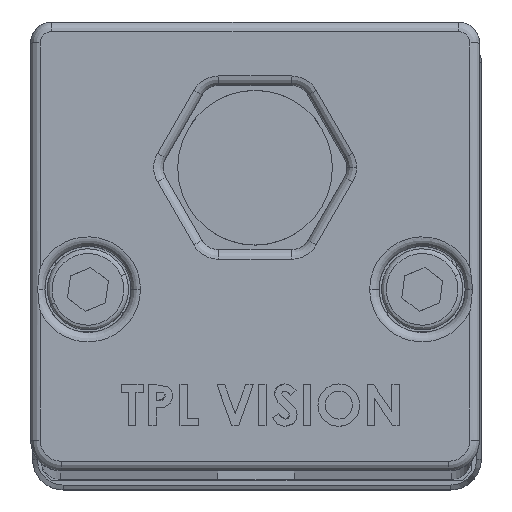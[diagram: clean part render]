
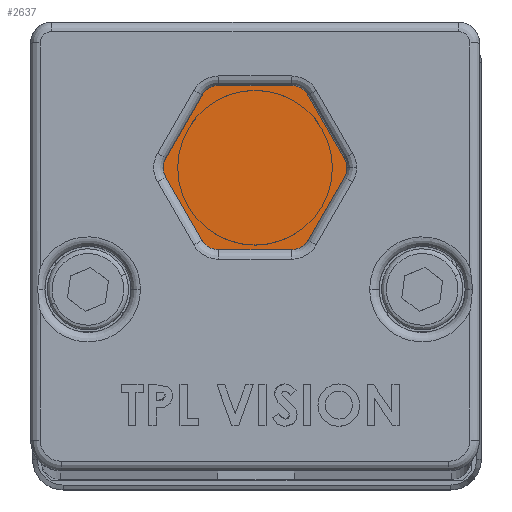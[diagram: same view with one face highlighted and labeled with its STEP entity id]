
A CAD part, top view. The second image highlights one B-rep face of the part: STEP entity #2637.
In plain terms, the highlighted planar face has unit normal (0, 0, 1).
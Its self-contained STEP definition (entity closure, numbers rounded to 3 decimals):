
#2580 = ORIENTED_EDGE ( 'NONE', *, *, #2582, .T. ) ;
#2582 = EDGE_CURVE ( 'NONE', #2640, #2583, #12076, .T. ) ;
#2583 = VERTEX_POINT ( 'NONE', #12317 ) ;
#2584 = ORIENTED_EDGE ( 'NONE', *, *, #2585, .T. ) ;
#2585 = EDGE_CURVE ( 'NONE', #2583, #2586, #12314, .T. ) ;
#2586 = VERTEX_POINT ( 'NONE', #12310 ) ;
#2587 = ORIENTED_EDGE ( 'NONE', *, *, #2588, .T. ) ;
#2588 = EDGE_CURVE ( 'NONE', #2586, #2589, #12307, .T. ) ;
#2589 = VERTEX_POINT ( 'NONE', #12302 ) ;
#2600 = ORIENTED_EDGE ( 'NONE', *, *, #2601, .T. ) ;
#2601 = EDGE_CURVE ( 'NONE', #2627, #2602, #11978, .T. ) ;
#2602 = VERTEX_POINT ( 'NONE', #11965 ) ;
#2603 = ORIENTED_EDGE ( 'NONE', *, *, #2604, .T. ) ;
#2604 = EDGE_CURVE ( 'NONE', #2602, #2680, #11962, .T. ) ;
#2610 = ORIENTED_EDGE ( 'NONE', *, *, #2612, .T. ) ;
#2612 = EDGE_CURVE ( 'NONE', #2589, #2613, #12213, .T. ) ;
#2613 = VERTEX_POINT ( 'NONE', #12207 ) ;
#2614 = ORIENTED_EDGE ( 'NONE', *, *, #2615, .T. ) ;
#2615 = EDGE_CURVE ( 'NONE', #2613, #2616, #12201, .T. ) ;
#2616 = VERTEX_POINT ( 'NONE', #12195 ) ;
#2624 = ORIENTED_EDGE ( 'NONE', *, *, #2625, .T. ) ;
#2625 = EDGE_CURVE ( 'NONE', #2616, #2627, #12016, .T. ) ;
#2627 = VERTEX_POINT ( 'NONE', #12010 ) ;
#2637 = ADVANCED_FACE ( 'NONE', ( #12956 ), #12916, .T. ) ;
#2638 = EDGE_LOOP ( 'NONE', ( #2580, #2584, #2587, #2610, #2614, #2624, #2600, #2603, #2681, #2683, #2684, #2687, #2693 ) ) ;
#2640 = VERTEX_POINT ( 'NONE', #12914 ) ;
#2680 = VERTEX_POINT ( 'NONE', #12645 ) ;
#2681 = ORIENTED_EDGE ( 'NONE', *, *, #2682, .T. ) ;
#2682 = EDGE_CURVE ( 'NONE', #2680, #5647, #12631, .T. ) ;
#2683 = ORIENTED_EDGE ( 'NONE', *, *, #5646, .T. ) ;
#2684 = ORIENTED_EDGE ( 'NONE', *, *, #2685, .T. ) ;
#2685 = EDGE_CURVE ( 'NONE', #5648, #2686, #12633, .T. ) ;
#2686 = VERTEX_POINT ( 'NONE', #12616 ) ;
#2687 = ORIENTED_EDGE ( 'NONE', *, *, #2689, .T. ) ;
#2689 = EDGE_CURVE ( 'NONE', #2686, #2691, #12615, .T. ) ;
#2691 = VERTEX_POINT ( 'NONE', #12607 ) ;
#2693 = ORIENTED_EDGE ( 'NONE', *, *, #3259, .T. ) ;
#3259 = EDGE_CURVE ( 'NONE', #2691, #2640, #15465, .T. ) ;
#5646 = EDGE_CURVE ( 'NONE', #5647, #5648, #23980, .T. ) ;
#5647 = VERTEX_POINT ( 'NONE', #23971 ) ;
#5648 = VERTEX_POINT ( 'NONE', #23970 ) ;
#11958 = DIRECTION ( 'NONE',  ( 0.5, 0.866, 0. ) ) ;
#11960 = VECTOR ( 'NONE', #11958, 1000. ) ;
#11961 = CARTESIAN_POINT ( 'NONE',  ( -4.027, 6.9, 1074.5 ) ) ;
#11962 = LINE ( 'NONE', #11961, #11960 ) ;
#11965 = CARTESIAN_POINT ( 'NONE',  ( -4.027, 6.9, 1074.5 ) ) ;
#11967 = DIRECTION ( 'NONE',  ( 1., 0., 0. ) ) ;
#11968 = DIRECTION ( 'NONE',  ( 0., 0., 1. ) ) ;
#11970 = CARTESIAN_POINT ( 'NONE',  ( -5.759, 7.9, 1074.5 ) ) ;
#11971 = AXIS2_PLACEMENT_3D ( 'NONE', #11970, #11968, #11967 ) ;
#11978 = CIRCLE ( 'NONE', #11971, 2. ) ;
#12010 = CARTESIAN_POINT ( 'NONE',  ( -5.759, 5.9, 1074.5 ) ) ;
#12011 = DIRECTION ( 'NONE',  ( 1., 0., 0. ) ) ;
#12013 = VECTOR ( 'NONE', #12011, 1000. ) ;
#12015 = CARTESIAN_POINT ( 'NONE',  ( -13.38, 5.9, 1074.5 ) ) ;
#12016 = LINE ( 'NONE', #12015, #12013 ) ;
#12076 = CIRCLE ( 'NONE', #12324, 2. ) ;
#12195 = CARTESIAN_POINT ( 'NONE',  ( -13.38, 5.9, 1074.5 ) ) ;
#12196 = DIRECTION ( 'NONE',  ( 1., 0., 0. ) ) ;
#12197 = DIRECTION ( 'NONE',  ( 0., 0., 1. ) ) ;
#12198 = CARTESIAN_POINT ( 'NONE',  ( -13.38, 7.9, 1074.5 ) ) ;
#12199 = AXIS2_PLACEMENT_3D ( 'NONE', #12198, #12197, #12196 ) ;
#12201 = CIRCLE ( 'NONE', #12199, 2. ) ;
#12207 = CARTESIAN_POINT ( 'NONE',  ( -15.112, 6.9, 1074.5 ) ) ;
#12208 = DIRECTION ( 'NONE',  ( 0.5, -0.866, 0. ) ) ;
#12209 = VECTOR ( 'NONE', #12208, 1000. ) ;
#12211 = CARTESIAN_POINT ( 'NONE',  ( -18.923, 13.5, 1074.5 ) ) ;
#12213 = LINE ( 'NONE', #12211, #12209 ) ;
#12302 = CARTESIAN_POINT ( 'NONE',  ( -18.923, 13.5, 1074.5 ) ) ;
#12303 = DIRECTION ( 'NONE',  ( 1., 0., 0. ) ) ;
#12304 = DIRECTION ( 'NONE',  ( 0., 0., 1. ) ) ;
#12305 = CARTESIAN_POINT ( 'NONE',  ( -17.191, 14.5, 1074.5 ) ) ;
#12306 = AXIS2_PLACEMENT_3D ( 'NONE', #12305, #12304, #12303 ) ;
#12307 = CIRCLE ( 'NONE', #12306, 2. ) ;
#12310 = CARTESIAN_POINT ( 'NONE',  ( -18.923, 15.5, 1074.5 ) ) ;
#12311 = DIRECTION ( 'NONE',  ( -0.5, -0.866, 0. ) ) ;
#12312 = VECTOR ( 'NONE', #12311, 1000. ) ;
#12313 = CARTESIAN_POINT ( 'NONE',  ( -15.112, 22.1, 1074.5 ) ) ;
#12314 = LINE ( 'NONE', #12313, #12312 ) ;
#12317 = CARTESIAN_POINT ( 'NONE',  ( -15.112, 22.1, 1074.5 ) ) ;
#12318 = DIRECTION ( 'NONE',  ( 1., 0., 0. ) ) ;
#12320 = DIRECTION ( 'NONE',  ( 0., 0., 1. ) ) ;
#12322 = CARTESIAN_POINT ( 'NONE',  ( -13.38, 21.1, 1074.5 ) ) ;
#12324 = AXIS2_PLACEMENT_3D ( 'NONE', #12322, #12320, #12318 ) ;
#12607 = CARTESIAN_POINT ( 'NONE',  ( -5.759, 23.1, 1074.5 ) ) ;
#12609 = DIRECTION ( 'NONE',  ( 1., 0., 0. ) ) ;
#12612 = DIRECTION ( 'NONE',  ( 0., 0., 1. ) ) ;
#12613 = CARTESIAN_POINT ( 'NONE',  ( -5.759, 21.1, 1074.5 ) ) ;
#12614 = AXIS2_PLACEMENT_3D ( 'NONE', #12613, #12612, #12609 ) ;
#12615 = CIRCLE ( 'NONE', #12614, 2. ) ;
#12616 = CARTESIAN_POINT ( 'NONE',  ( -4.027, 22.1, 1074.5 ) ) ;
#12617 = DIRECTION ( 'NONE',  ( -0.5, 0.866, 0. ) ) ;
#12618 = VECTOR ( 'NONE', #12617, 1000. ) ;
#12620 = CARTESIAN_POINT ( 'NONE',  ( -0.217, 15.5, 1074.5 ) ) ;
#12624 = DIRECTION ( 'NONE',  ( 1., 0., 0. ) ) ;
#12626 = DIRECTION ( 'NONE',  ( 0., 0., 1. ) ) ;
#12628 = CARTESIAN_POINT ( 'NONE',  ( -1.949, 14.5, 1074.5 ) ) ;
#12629 = AXIS2_PLACEMENT_3D ( 'NONE', #12628, #12626, #12624 ) ;
#12631 = CIRCLE ( 'NONE', #12629, 2. ) ;
#12633 = LINE ( 'NONE', #12620, #12618 ) ;
#12645 = CARTESIAN_POINT ( 'NONE',  ( -0.217, 13.5, 1074.5 ) ) ;
#12909 = DIRECTION ( 'NONE',  ( 1., 0., 0. ) ) ;
#12910 = DIRECTION ( 'NONE',  ( 0., 0., 1. ) ) ;
#12911 = CARTESIAN_POINT ( 'NONE',  ( -13.38, 21.1, 1074.5 ) ) ;
#12913 = AXIS2_PLACEMENT_3D ( 'NONE', #12911, #12910, #12909 ) ;
#12914 = CARTESIAN_POINT ( 'NONE',  ( -13.38, 23.1, 1074.5 ) ) ;
#12916 = PLANE ( 'NONE',  #12913 ) ;
#12956 = FACE_OUTER_BOUND ( 'NONE', #2638, .T. ) ;
#15460 = DIRECTION ( 'NONE',  ( -1., 0., 0. ) ) ;
#15461 = VECTOR ( 'NONE', #15460, 1000. ) ;
#15463 = CARTESIAN_POINT ( 'NONE',  ( -5.759, 23.1, 1074.5 ) ) ;
#15465 = LINE ( 'NONE', #15463, #15461 ) ;
#23970 = CARTESIAN_POINT ( 'NONE',  ( -0.217, 15.5, 1074.5 ) ) ;
#23971 = CARTESIAN_POINT ( 'NONE',  ( 0.051, 14.5, 1074.5 ) ) ;
#23972 = DIRECTION ( 'NONE',  ( 1., 0., 0. ) ) ;
#23973 = DIRECTION ( 'NONE',  ( 0., 0., 1. ) ) ;
#23974 = CARTESIAN_POINT ( 'NONE',  ( -1.949, 14.5, 1074.5 ) ) ;
#23975 = AXIS2_PLACEMENT_3D ( 'NONE', #23974, #23973, #23972 ) ;
#23980 = CIRCLE ( 'NONE', #23975, 2. ) ;
